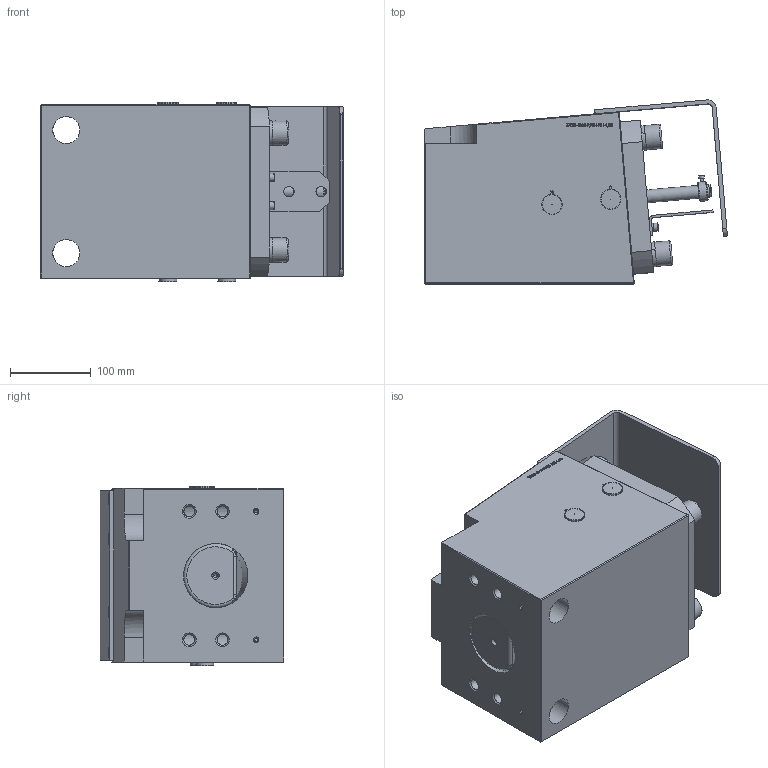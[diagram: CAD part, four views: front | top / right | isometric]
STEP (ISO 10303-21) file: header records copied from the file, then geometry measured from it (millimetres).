
FILE_DESCRIPTION((''),'2;1');
FILE_NAME('Y:\Appl. Engineering\Drawings in STEP Format\WOD\WOD4010-2.204-RH-1,25 (1,25).stp','2013-10-24T09:56:41',('jaccow'),(''),'Autodesk Inventor 2013','Autodesk Inventor 2013','');
FILE_SCHEMA(('AUTOMOTIVE_DESIGN { 1 0 10303 214 1 1 1 1 }'));
Length unit declared in the file: millimetre
Products named in the file (1): Part1
Bounding box: 374.81 x 227.64 x 222.6 mm (x, y, z)
Volume: 11063219.4 mm3; surface area: 789356.1 mm2
Topology: 2 solids, 27 shells, 906 faces, 2232 edges, 1432 vertices
Faces by surface type: plane 462, bspline 152, cylinder 143, cone 104, torus 35, revolution 8, sphere 2
Full cylindrical faces by diameter (mm): 3.242 x1, 3.683 x2, 4 x1, 4.917 x8, 5 x1, 6 x10, 7 x7, 8 x3, 9 x1, 10 x2, 12 x4, 13 x2, 13.386 x4, 14.376 x1, 16 x3, 16.03 x1, 16.1 x1, 16.25 x1, 16.4 x1, 16.5 x2, 16.8 x1, 17.294 x4, 17.323 x6, 18 x1, 19.6 x1, 20 x4, 21.5 x4, 22.25 x2, 22.4 x2, 24 x3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
Entity records: 26874 total; most frequent: CARTESIAN_POINT 7271, ORIENTED_EDGE 3670, DIRECTION 3419, EDGE_CURVE 1835, VERTEX_POINT 1303, EDGE_LOOP 1289, AXIS2_PLACEMENT_3D 1212, VECTOR 987
